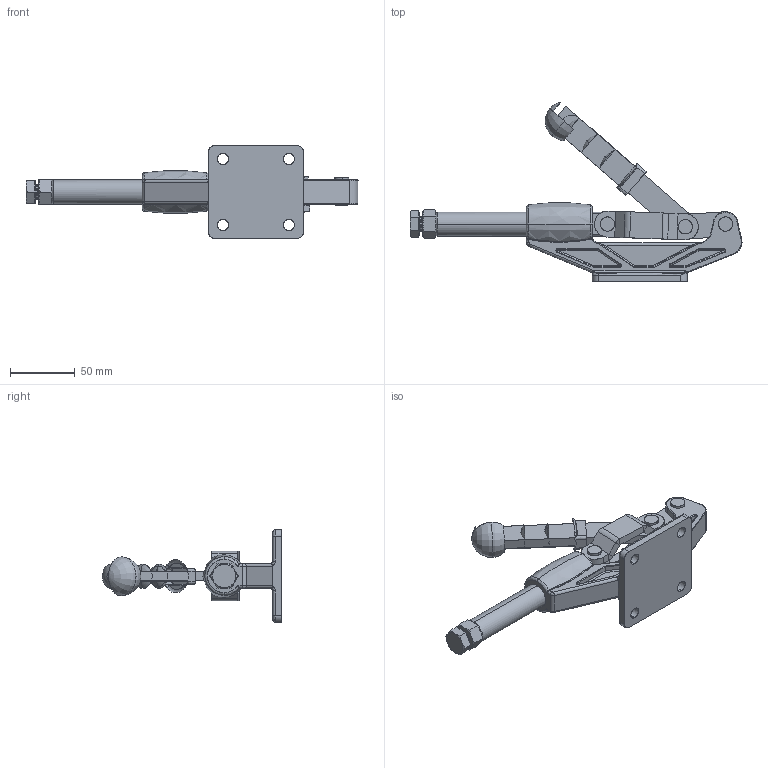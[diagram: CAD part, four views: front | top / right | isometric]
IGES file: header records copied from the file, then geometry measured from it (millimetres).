
Start section: SolidWorks IGES file using analytic representation for surfaces
Global section: file name: \\BARTOP_SV6\share\SOLIDWORKS\工具事業部\坂入用\Toggle clamp\ISK-SL3000\ISK-SL3000.IGS; native system: SolidWorks 2015; preprocessor: SolidWorks 2015; author: SOLID02; date: 150728.190146; units: millimetre
Bounding box: 255.58 x 138.26 x 71.4 mm (x, y, z)
Surface area: 77775.5 mm2 (no closed solid volume)
Topology: 0 solids, 0 shells, 723 faces, 7059 edges, 7030 vertices
Faces by surface type: revolution 440, bspline 283
